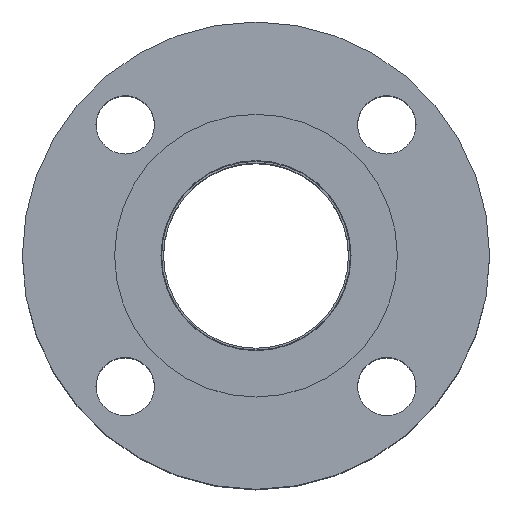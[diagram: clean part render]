
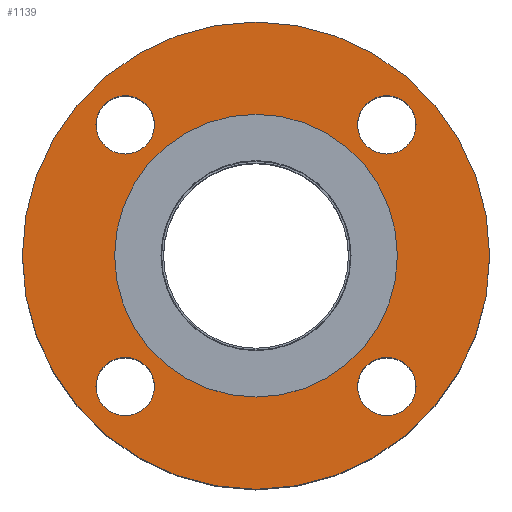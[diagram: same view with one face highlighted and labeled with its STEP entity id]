
A CAD part, top view. The second image highlights one B-rep face of the part: STEP entity #1139.
In plain terms, the highlighted planar face has unit normal (0, 0, 1).
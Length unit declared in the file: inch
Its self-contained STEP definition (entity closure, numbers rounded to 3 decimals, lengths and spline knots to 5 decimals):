
#80=FACE_BOUND('',#311,.T.);
#81=FACE_BOUND('',#312,.T.);
#82=FACE_BOUND('',#313,.T.);
#83=FACE_BOUND('',#314,.T.);
#84=FACE_BOUND('',#315,.T.);
#126=PLANE('',#1300);
#213=FACE_OUTER_BOUND('',#310,.T.);
#310=EDGE_LOOP('',(#877));
#311=EDGE_LOOP('',(#878));
#312=EDGE_LOOP('',(#879));
#313=EDGE_LOOP('',(#880));
#314=EDGE_LOOP('',(#881));
#315=EDGE_LOOP('',(#882));
#455=CIRCLE('',#1267,0.375);
#457=CIRCLE('',#1270,0.375);
#459=CIRCLE('',#1273,0.375);
#461=CIRCLE('',#1276,0.375);
#474=CIRCLE('',#1295,1.815);
#476=CIRCLE('',#1299,3.);
#587=VERTEX_POINT('',#2002);
#589=VERTEX_POINT('',#2008);
#591=VERTEX_POINT('',#2014);
#593=VERTEX_POINT('',#2020);
#604=VERTEX_POINT('',#2052);
#606=VERTEX_POINT('',#2059);
#683=EDGE_CURVE('',#587,#587,#455,.T.);
#686=EDGE_CURVE('',#589,#589,#457,.T.);
#689=EDGE_CURVE('',#591,#591,#459,.T.);
#692=EDGE_CURVE('',#593,#593,#461,.T.);
#708=EDGE_CURVE('',#604,#604,#474,.T.);
#710=EDGE_CURVE('',#606,#606,#476,.T.);
#877=ORIENTED_EDGE('',*,*,#710,.T.);
#878=ORIENTED_EDGE('',*,*,#683,.T.);
#879=ORIENTED_EDGE('',*,*,#686,.T.);
#880=ORIENTED_EDGE('',*,*,#689,.T.);
#881=ORIENTED_EDGE('',*,*,#692,.T.);
#882=ORIENTED_EDGE('',*,*,#708,.T.);
#1139=ADVANCED_FACE('',(#213,#80,#81,#82,#83,#84),#126,.T.);
#1267=AXIS2_PLACEMENT_3D('',#2003,#1511,#1512);
#1270=AXIS2_PLACEMENT_3D('',#2009,#1518,#1519);
#1273=AXIS2_PLACEMENT_3D('',#2015,#1525,#1526);
#1276=AXIS2_PLACEMENT_3D('',#2021,#1532,#1533);
#1295=AXIS2_PLACEMENT_3D('',#2054,#1573,#1574);
#1299=AXIS2_PLACEMENT_3D('',#2060,#1581,#1582);
#1300=AXIS2_PLACEMENT_3D('',#2062,#1584,#1585);
#1511=DIRECTION('center_axis',(0.,0.,-1.));
#1512=DIRECTION('ref_axis',(0.,-1.,0.));
#1518=DIRECTION('center_axis',(0.,0.,-1.));
#1519=DIRECTION('ref_axis',(-1.,0.,0.));
#1525=DIRECTION('center_axis',(0.,0.,-1.));
#1526=DIRECTION('ref_axis',(0.,1.,0.));
#1532=DIRECTION('center_axis',(0.,0.,-1.));
#1533=DIRECTION('ref_axis',(1.,0.,0.));
#1573=DIRECTION('center_axis',(0.,0.,-1.));
#1574=DIRECTION('ref_axis',(0.,1.,0.));
#1581=DIRECTION('center_axis',(0.,0.,1.));
#1582=DIRECTION('ref_axis',(1.,0.,0.));
#1584=DIRECTION('center_axis',(0.,0.,1.));
#1585=DIRECTION('ref_axis',(1.,0.,0.));
#2002=CARTESIAN_POINT('',(1.67938,2.05438,0.345));
#2003=CARTESIAN_POINT('Origin',(1.67938,1.67938,0.345));
#2008=CARTESIAN_POINT('',(2.05438,-1.67938,0.345));
#2009=CARTESIAN_POINT('Origin',(1.67938,-1.67938,0.345));
#2014=CARTESIAN_POINT('',(-1.67938,-2.05438,0.345));
#2015=CARTESIAN_POINT('Origin',(-1.67938,-1.67938,0.345));
#2020=CARTESIAN_POINT('',(-2.05438,1.67938,0.345));
#2021=CARTESIAN_POINT('Origin',(-1.67938,1.67938,0.345));
#2052=CARTESIAN_POINT('',(0.,-1.815,0.345));
#2054=CARTESIAN_POINT('Origin',(0.,0.,0.345));
#2059=CARTESIAN_POINT('',(0.,-3.,0.345));
#2060=CARTESIAN_POINT('Origin',(0.,0.,0.345));
#2062=CARTESIAN_POINT('Origin',(0.,1.22,0.345));
